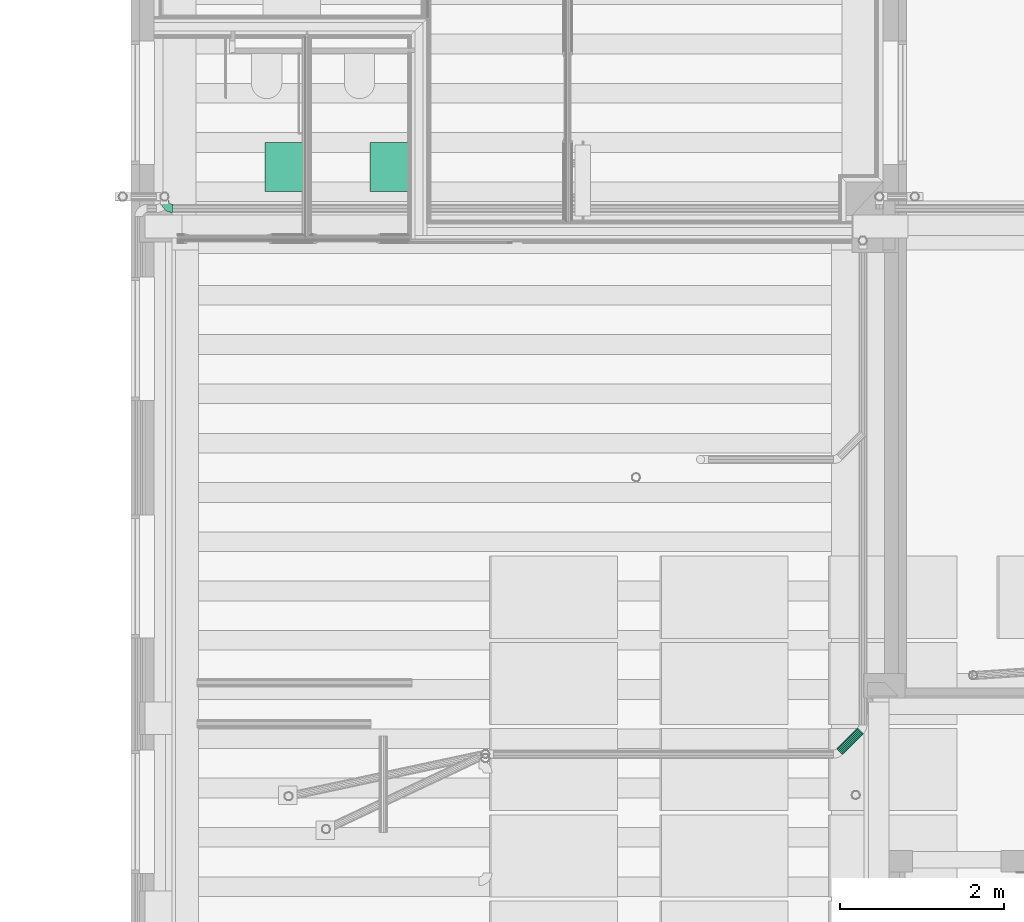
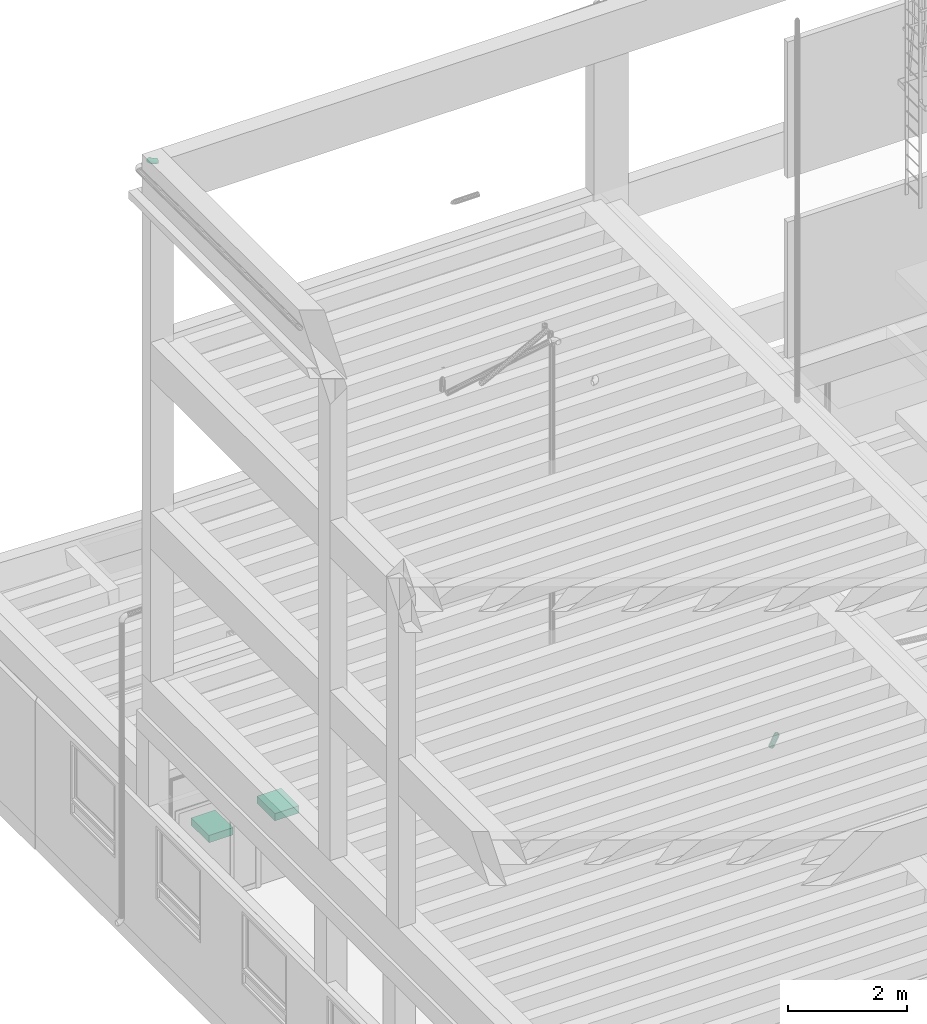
# One storey, part 83 of 106: 2 flow terminals, 1 flow fitting, 1 flow segment.
"""IFC2X3 building model written with IfcOpenShell, lengths in metres."""

from ifc_helpers import new_model, entity, si_unit, converted_unit, derived_unit, money_unit, direction, frame, origin_with_axes, place, context, subcontext, project, spatial, open_shell, faceted_brep, surface_model, material, type_object, element, save


model = new_model("IFC2X3")

# Units and contexts
model_context = context("Model", 3, precision=1e-05, world=origin_with_axes(), true_north=direction((0.0, 1.0)))
body_context = subcontext(model_context, "Body", "Model", "MODEL_VIEW", scale=1.0)
ifc_project = project(units=[si_unit("LENGTHUNIT", "METRE"), si_unit("AREAUNIT", "SQUARE_METRE"), si_unit("VOLUMEUNIT", "CUBIC_METRE"), si_unit("ABSORBEDDOSEUNIT", "GRAY"), si_unit("AMOUNTOFSUBSTANCEUNIT", "MOLE"), si_unit("DOSEEQUIVALENTUNIT", "SIEVERT"), si_unit("ELECTRICCAPACITANCEUNIT", "FARAD"), si_unit("ELECTRICCHARGEUNIT", "COULOMB"), si_unit("ELECTRICCONDUCTANCEUNIT", "SIEMENS"), si_unit("ELECTRICCURRENTUNIT", "AMPERE"), si_unit("ELECTRICRESISTANCEUNIT", "OHM"), si_unit("ELECTRICVOLTAGEUNIT", "VOLT"), si_unit("ENERGYUNIT", "JOULE"), si_unit("FORCEUNIT", "NEWTON"), si_unit("FREQUENCYUNIT", "HERTZ"), si_unit("ILLUMINANCEUNIT", "LUX"), si_unit("INDUCTANCEUNIT", "HENRY"), si_unit("LUMINOUSFLUXUNIT", "LUMEN"), si_unit("LUMINOUSINTENSITYUNIT", "CANDELA"), si_unit("MAGNETICFLUXDENSITYUNIT", "TESLA"), si_unit("MAGNETICFLUXUNIT", "WEBER"), si_unit("MASSUNIT", "GRAM"), converted_unit("PLANEANGLEUNIT", "degree", entity("IfcReal", 0.0174532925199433), si_unit("PLANEANGLEUNIT", "RADIAN"), dimensions=[0, 0, 0, 0, 0, 0, 0]), si_unit("POWERUNIT", "WATT"), si_unit("PRESSUREUNIT", "PASCAL"), si_unit("RADIOACTIVITYUNIT", "BECQUEREL"), si_unit("SOLIDANGLEUNIT", "STERADIAN"), si_unit("THERMODYNAMICTEMPERATUREUNIT", "KELVIN"), si_unit("TIMEUNIT", "SECOND"), derived_unit("ACCELERATIONUNIT", [(si_unit("LENGTHUNIT", "METRE"), 1), (si_unit("TIMEUNIT", "SECOND"), -2)]), derived_unit("ANGULARVELOCITYUNIT", [(converted_unit("PLANEANGLEUNIT", "degree", entity("IfcReal", 0.0174532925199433), si_unit("PLANEANGLEUNIT", "RADIAN"), dimensions=[0, 0, 0, 0, 0, 0, 0]), 1), (si_unit("TIMEUNIT", "SECOND"), -1)]), derived_unit("CURVATUREUNIT", [(converted_unit("PLANEANGLEUNIT", "degree", entity("IfcReal", 0.0174532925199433), si_unit("PLANEANGLEUNIT", "RADIAN"), dimensions=[0, 0, 0, 0, 0, 0, 0]), 1), (si_unit("LENGTHUNIT", "METRE"), -1)]), derived_unit("DYNAMICVISCOSITYUNIT", [(si_unit("PRESSUREUNIT", "PASCAL"), 1), (si_unit("TIMEUNIT", "SECOND"), 1)]), derived_unit("HEATFLUXDENSITYUNIT", [(si_unit("POWERUNIT", "WATT"), 1), (si_unit("LENGTHUNIT", "METRE"), -2)]), derived_unit("HEATINGVALUEUNIT", [(si_unit("ENERGYUNIT", "JOULE"), 1), (si_unit("MASSUNIT", "GRAM"), -1)]), derived_unit("INTEGERCOUNTRATEUNIT", [(si_unit("TIMEUNIT", "SECOND"), -1)]), derived_unit("IONCONCENTRATIONUNIT", [(si_unit("MASSUNIT", "GRAM"), 1), (si_unit("VOLUMEUNIT", "CUBIC_METRE"), -1)]), derived_unit("ISOTHERMALMOISTURECAPACITYUNIT", [(si_unit("VOLUMEUNIT", "CUBIC_METRE"), 1), (si_unit("MASSUNIT", "GRAM"), -1)]), derived_unit("KINEMATICVISCOSITYUNIT", [(si_unit("AREAUNIT", "SQUARE_METRE"), 1), (si_unit("TIMEUNIT", "SECOND"), -1)]), derived_unit("LINEARFORCEUNIT", [(si_unit("FORCEUNIT", "NEWTON"), 1), (si_unit("LENGTHUNIT", "METRE"), -1)]), derived_unit("LINEARMOMENTUNIT", [(si_unit("FORCEUNIT", "NEWTON"), 1), (si_unit("LENGTHUNIT", "METRE"), -1)]), derived_unit("LINEARSTIFFNESSUNIT", [(si_unit("FORCEUNIT", "NEWTON"), 1), (si_unit("LENGTHUNIT", "METRE"), -1)]), derived_unit("LINEARVELOCITYUNIT", [(si_unit("LENGTHUNIT", "METRE"), 1), (si_unit("TIMEUNIT", "SECOND"), -1)]), derived_unit("LUMINOUSINTENSITYDISTRIBUTIONUNIT", [(si_unit("LUMINOUSINTENSITYUNIT", "CANDELA"), 1), (si_unit("LUMINOUSFLUXUNIT", "LUMEN"), -1)]), derived_unit("MASSDENSITYUNIT", [(si_unit("MASSUNIT", "GRAM"), 1), (si_unit("VOLUMEUNIT", "CUBIC_METRE"), -1)]), derived_unit("MASSFLOWRATEUNIT", [(si_unit("MASSUNIT", "GRAM"), 1), (si_unit("TIMEUNIT", "SECOND"), -1)]), derived_unit("MASSPERLENGTHUNIT", [(si_unit("MASSUNIT", "GRAM"), 1), (si_unit("LENGTHUNIT", "METRE"), -1)]), derived_unit("MODULUSOFELASTICITYUNIT", [(si_unit("FORCEUNIT", "NEWTON"), 1), (si_unit("AREAUNIT", "SQUARE_METRE"), -1)]), derived_unit("MODULUSOFLINEARSUBGRADEREACTIONUNIT", [(si_unit("FORCEUNIT", "NEWTON"), 1), (si_unit("LENGTHUNIT", "METRE"), -2)]), derived_unit("MODULUSOFROTATIONALSUBGRADEREACTIONUNIT", [(si_unit("FORCEUNIT", "NEWTON"), 1), (si_unit("LENGTHUNIT", "METRE"), 1)]), derived_unit("MODULUSOFSUBGRADEREACTIONUNIT", [(si_unit("FORCEUNIT", "NEWTON"), 1), (si_unit("VOLUMEUNIT", "CUBIC_METRE"), -1)]), derived_unit("MOISTUREDIFFUSIVITYUNIT", [(si_unit("VOLUMEUNIT", "CUBIC_METRE"), 1), (si_unit("TIMEUNIT", "SECOND"), -1)]), derived_unit("MOLECULARWEIGHTUNIT", [(si_unit("MASSUNIT", "GRAM"), 1), (si_unit("AMOUNTOFSUBSTANCEUNIT", "MOLE"), -1)]), derived_unit("PLANARFORCEUNIT", [(si_unit("FORCEUNIT", "NEWTON"), 1), (si_unit("LENGTHUNIT", "METRE"), -2)]), derived_unit("ROTATIONALFREQUENCYUNIT", [(si_unit("TIMEUNIT", "SECOND"), -1)]), derived_unit("ROTATIONALMASSUNIT", [(si_unit("MASSUNIT", "GRAM"), 1), (si_unit("LENGTHUNIT", "METRE"), 2)]), derived_unit("ROTATIONALSTIFFNESSUNIT", [(si_unit("FORCEUNIT", "NEWTON"), 1), (si_unit("LENGTHUNIT", "METRE"), 1), (converted_unit("PLANEANGLEUNIT", "degree", entity("IfcReal", 0.0174532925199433), si_unit("PLANEANGLEUNIT", "RADIAN"), dimensions=[0, 0, 0, 0, 0, 0, 0]), -1)]), derived_unit("SECTIONAREAINTEGRALUNIT", [(si_unit("LENGTHUNIT", "METRE"), 5)]), derived_unit("SECTIONMODULUSUNIT", [(si_unit("LENGTHUNIT", "METRE"), 3)]), derived_unit("SHEARMODULUSUNIT", [(si_unit("FORCEUNIT", "NEWTON"), 1), (si_unit("AREAUNIT", "SQUARE_METRE"), -1)]), derived_unit("SOUNDPOWERUNIT", [(si_unit("ENERGYUNIT", "JOULE"), 1), (si_unit("TIMEUNIT", "SECOND"), -1)]), derived_unit("SPECIFICHEATCAPACITYUNIT", [(si_unit("FORCEUNIT", "NEWTON"), 1), (si_unit("MASSUNIT", "GRAM"), -1), (si_unit("THERMODYNAMICTEMPERATUREUNIT", "KELVIN"), -1)]), derived_unit("TEMPERATUREGRADIENTUNIT", [(si_unit("THERMODYNAMICTEMPERATUREUNIT", "KELVIN"), 1), (si_unit("LENGTHUNIT", "METRE"), -1)]), derived_unit("THERMALADMITTANCEUNIT", [(si_unit("POWERUNIT", "WATT"), 1), (si_unit("AREAUNIT", "SQUARE_METRE"), -1), (si_unit("THERMODYNAMICTEMPERATUREUNIT", "KELVIN"), -1)]), derived_unit("THERMALCONDUCTANCEUNIT", [(si_unit("POWERUNIT", "WATT"), 1), (si_unit("LENGTHUNIT", "METRE"), -1), (si_unit("THERMODYNAMICTEMPERATUREUNIT", "KELVIN"), -1)]), derived_unit("THERMALEXPANSIONCOEFFICIENTUNIT", [(si_unit("THERMODYNAMICTEMPERATUREUNIT", "KELVIN"), -1)]), derived_unit("THERMALRESISTANCEUNIT", [(si_unit("AREAUNIT", "SQUARE_METRE"), 1), (si_unit("POWERUNIT", "WATT"), -1)]), derived_unit("THERMALTRANSMITTANCEUNIT", [(si_unit("POWERUNIT", "WATT"), 1), (si_unit("AREAUNIT", "SQUARE_METRE"), -1), (si_unit("THERMODYNAMICTEMPERATUREUNIT", "KELVIN"), -1)]), derived_unit("TORQUEUNIT", [(si_unit("FORCEUNIT", "NEWTON"), 1), (si_unit("LENGTHUNIT", "METRE"), 1)]), derived_unit("VAPORPERMEABILITYUNIT", [(si_unit("MASSUNIT", "GRAM"), 1), (si_unit("TIMEUNIT", "SECOND"), -1)]), derived_unit("VOLUMETRICFLOWRATEUNIT", [(si_unit("VOLUMEUNIT", "CUBIC_METRE"), 1), (si_unit("TIMEUNIT", "SECOND"), -1)]), derived_unit("WARPINGCONSTANTUNIT", [(si_unit("LENGTHUNIT", "METRE"), 6)]), derived_unit("WARPINGMOMENTUNIT", [(si_unit("FORCEUNIT", "NEWTON"), 1), (si_unit("LENGTHUNIT", "METRE"), 2)]), money_unit("GBP")], contexts=[model_context])

# Site, building, storey, space
site_placement = place(None, origin_with_axes())
site = spatial("IfcSite", under=ifc_project, at=site_placement, Name="Site", CompositionType="ELEMENT")
building_placement = place(site_placement, origin_with_axes())
building = spatial("IfcBuilding", under=site, at=building_placement, Name="Building01", CompositionType="ELEMENT")
storey_placement = place(building_placement, origin_with_axes())
storey = spatial("IfcBuildingStorey", under=building, at=storey_placement, Name="GF", CompositionType="ELEMENT", Elevation=0.0)
space_1_placement = place(storey_placement, frame((3.380525, 16.69365, 0.216987), z_axis=(0.0, 0.0, 1.0), x_axis=(-1.0, 0.0, 0.0)))
space_1 = spatial("IfcSpace", under=storey, at=space_1_placement, Name="0", CompositionType="ELEMENT", InteriorOrExteriorSpace="NOTDEFINED")

# Flow segment
ifc_material = material(Name="M_BSUK_ColdWater")
pipe_segment_type = type_object("IfcPipeSegmentType", Name="M-BmpStraightpipe-DefaultPipe", PredefinedType="RIGIDSEGMENT")
flow_segment_placement = place(storey_placement, frame((8.624542, 8.192454, 4.622748), z_axis=(0.00883814, 0.00883814, 0.99992188), x_axis=(0.70705155, 0.70705154, -0.01249902)))
element("IfcFlowSegment", 1, at=flow_segment_placement, inside=space_1, type_object=pipe_segment_type, material=ifc_material, Name="M-BmpStraightpipe-DefaultPipe", ObjectType="M-BmpStraightpipe-DefaultPipe", context=body_context, shape_type="Brep", body=[
    faceted_brep([(0.36222, 0.0, -0.05), (0.0, 0.0, -0.05), (0.0, 0.019134, -0.046194), (0.36222, 0.019134, -0.046194), (0.0, 0.035355, -0.035355), (0.36222, 0.035355, -0.035355), (0.0, 0.046194, -0.019134), (0.36222, 0.046194, -0.019134), (0.0, 0.05, 0.0), (0.36222, 0.05, 0.0), (0.0, 0.046194, 0.019134), (0.36222, 0.046194, 0.019134), (0.0, 0.035355, 0.035355), (0.36222, 0.035355, 0.035355), (0.0, 0.019134, 0.046194), (0.36222, 0.019134, 0.046194), (0.0, 0.0, 0.05), (0.36222, 0.0, 0.05), (0.0, -0.019134, 0.046194), (0.36222, -0.019134, 0.046194), (0.0, -0.035355, 0.035355), (0.36222, -0.035355, 0.035355), (0.0, -0.046194, 0.019134), (0.36222, -0.046194, 0.019134), (0.0, -0.05, 0.0), (0.36222, -0.05, 0.0), (0.0, -0.046194, -0.019134), (0.36222, -0.046194, -0.019134), (0.0, -0.035355, -0.035355), (0.36222, -0.035355, -0.035355), (0.0, -0.019134, -0.046194), (0.36222, -0.019134, -0.046194)], [[[0, 1, 2, 3]], [[3, 2, 4, 5]], [[5, 4, 6, 7]], [[7, 6, 8, 9]], [[9, 8, 10, 11]], [[11, 10, 12, 13]], [[13, 12, 14, 15]], [[15, 14, 16, 17]], [[17, 16, 18, 19]], [[19, 18, 20, 21]], [[21, 20, 22, 23]], [[23, 22, 24, 25]], [[25, 24, 26, 27]], [[27, 26, 28, 29]], [[29, 28, 30, 31]], [[31, 30, 1, 0]]]),
])

# Flow fitting
pipe_fitting_type = type_object("IfcPipeFittingType", Name="M-BmpElbow-DefaultElbow", PredefinedType="BEND")
flow_fitting_placement = place(storey_placement, frame((0.408496, 14.905103, 15.475211), z_axis=(-1.0, 0.0, 0.0), x_axis=(0.0, 0.99414865, -0.10802068)))
element("IfcFlowFitting", 2, at=flow_fitting_placement, inside=storey, type_object=pipe_fitting_type, material=ifc_material, Name="M-BmpElbow-DefaultElbow", ObjectType="M-BmpElbow-DefaultElbow", context=body_context, shape_type="SurfaceModel", body=[
    surface_model("IfcShellBasedSurfaceModel", [(-0.008009, -0.01349, -0.048768), (0.0, -0.01349, -0.048146), (0.0, 0.0, -0.05), (-0.007723, 0.0, -0.0506), (-0.015826, -0.01349, -0.05062), (-0.015261, 0.0, -0.052386), (-0.023264, -0.01349, -0.053657), (-0.022432, 0.0, -0.055314), (-0.030143, -0.01349, -0.057807), (-0.029065, 0.0, -0.059315), (-0.036298, -0.01349, -0.062969), (-0.035, 0.0, -0.064293), (-0.041582, -0.01349, -0.06902), (-0.040095, 0.0, -0.070127), (-0.045868, -0.01349, -0.075814), (-0.044228, 0.0, -0.076679), (-0.049054, -0.01349, -0.083189), (-0.0473, 0.0, -0.08379), (-0.051061, -0.01349, -0.090968), (-0.049236, 0.0, -0.091291), (-0.051844, -0.01349, -0.098963), (-0.04999, 0.0, -0.099), (-0.008847, -0.025979, -0.043408), (0.0, -0.025979, -0.042721), (-0.017482, -0.025979, -0.045454), (-0.025697, -0.025979, -0.048809), (-0.033296, -0.025979, -0.053392), (-0.040095, -0.025979, -0.059095), (-0.045932, -0.025979, -0.065779), (-0.050667, -0.025979, -0.073284), (-0.054185, -0.025979, -0.081431), (-0.056403, -0.025979, -0.090023), (-0.057268, -0.025979, -0.098855), (-0.010175, -0.036542, -0.034918), (0.0, -0.036542, -0.034128), (-0.020105, -0.036542, -0.037271), (-0.029553, -0.036542, -0.041129), (-0.038291, -0.036542, -0.0464), (-0.046111, -0.036542, -0.052958), (-0.052823, -0.036542, -0.060645), (-0.058268, -0.036542, -0.069276), (-0.062315, -0.036542, -0.078645), (-0.064865, -0.036542, -0.088526), (-0.065859, -0.036542, -0.098683), (-0.011893, -0.044394, -0.023927), (0.0, -0.044394, -0.023003), (-0.0235, -0.044394, -0.026677), (-0.034544, -0.044394, -0.031187), (-0.044758, -0.044394, -0.037348), (-0.053898, -0.044394, -0.045013), (-0.061744, -0.044394, -0.053998), (-0.068109, -0.044394, -0.064087), (-0.072838, -0.044394, -0.075038), (-0.07582, -0.044394, -0.086588), (-0.076981, -0.044394, -0.09846), (-0.013875, -0.048954, -0.011251), (0.0, -0.048954, -0.010173), (-0.027416, -0.048954, -0.014459), (-0.0403, -0.048954, -0.01972), (-0.052216, -0.048954, -0.026908), (-0.062879, -0.048954, -0.035851), (-0.072033, -0.048954, -0.046333), (-0.079458, -0.048954, -0.058103), (-0.084976, -0.048954, -0.070879), (-0.088454, -0.048954, -0.084353), (-0.089809, -0.048954, -0.098204), (-0.015973, -0.049883, 0.002171), (0.0, -0.049883, 0.003412), (-0.031562, -0.049883, -0.001522), (-0.046394, -0.049883, -0.007579), (-0.060113, -0.049883, -0.015854), (-0.072389, -0.049883, -0.026149), (-0.082927, -0.049883, -0.038216), (-0.091475, -0.049883, -0.051767), (-0.097827, -0.049883, -0.066475), (-0.101831, -0.049883, -0.081987), (-0.103391, -0.049883, -0.097932), (-0.018032, -0.047113, 0.015343), (0.0, -0.047113, 0.016744), (-0.035632, -0.047113, 0.011174), (-0.052376, -0.047113, 0.004336), (-0.067863, -0.047113, -0.005006), (-0.081721, -0.047113, -0.016628), (-0.093618, -0.047113, -0.030251), (-0.103268, -0.047113, -0.045548), (-0.110439, -0.047113, -0.062153), (-0.114959, -0.047113, -0.079665), (-0.116721, -0.047113, -0.097665), (-0.0199, -0.040848, 0.027288), (0.0, -0.040848, 0.028834), (-0.039322, -0.040848, 0.022687), (-0.0578, -0.040848, 0.015141), (-0.074891, -0.040848, 0.004831), (-0.090184, -0.040848, -0.007994), (-0.103313, -0.040848, -0.023028), (-0.113962, -0.040848, -0.039909), (-0.121876, -0.040848, -0.058233), (-0.126865, -0.040848, -0.077559), (-0.128808, -0.040848, -0.097424), (-0.021437, -0.031554, 0.03712), (0.0, -0.031554, 0.038786), (-0.042359, -0.031554, 0.032163), (-0.062264, -0.031554, 0.024035), (-0.080675, -0.031554, 0.012929), (-0.09715, -0.031554, -0.000887), (-0.111293, -0.031554, -0.017083), (-0.122765, -0.031554, -0.035268), (-0.13129, -0.031554, -0.055007), (-0.136664, -0.031554, -0.075826), (-0.138758, -0.031554, -0.097225), (-0.022529, -0.01992, 0.04411), (0.0, -0.01992, 0.045861), (-0.044518, -0.01992, 0.038901), (-0.065438, -0.01992, 0.030358), (-0.084788, -0.01992, 0.018686), (-0.102103, -0.01992, 0.004165), (-0.116966, -0.01992, -0.012856), (-0.129023, -0.01992, -0.031968), (-0.137983, -0.01992, -0.052713), (-0.143631, -0.01992, -0.074593), (-0.145831, -0.01992, -0.097083), (-0.023097, -0.006808, 0.04774), (0.0, -0.006808, 0.049534), (-0.045639, -0.006808, 0.042399), (-0.067087, -0.006808, 0.033641), (-0.086924, -0.006808, 0.021675), (-0.104674, -0.006808, 0.006789), (-0.119912, -0.006808, -0.010661), (-0.132273, -0.006808, -0.030254), (-0.141458, -0.006808, -0.051522), (-0.147248, -0.006808, -0.073953), (-0.149504, -0.006808, -0.09701), (-0.023097, 0.006808, 0.04774), (0.0, 0.006808, 0.049534), (-0.045639, 0.006808, 0.042399), (-0.067087, 0.006808, 0.033641), (-0.086924, 0.006808, 0.021675), (-0.104674, 0.006808, 0.006789), (-0.119912, 0.006808, -0.010661), (-0.132273, 0.006808, -0.030254), (-0.141458, 0.006808, -0.051522), (-0.147248, 0.006808, -0.073953), (-0.149504, 0.006808, -0.09701), (-0.022529, 0.01992, 0.04411), (0.0, 0.01992, 0.045861), (-0.044518, 0.01992, 0.038901), (-0.065438, 0.01992, 0.030358), (-0.084788, 0.01992, 0.018686), (-0.102103, 0.01992, 0.004165), (-0.116966, 0.01992, -0.012856), (-0.129023, 0.01992, -0.031968), (-0.137983, 0.01992, -0.052713), (-0.143631, 0.01992, -0.074593), (-0.145831, 0.01992, -0.097083), (-0.021437, 0.031554, 0.03712), (0.0, 0.031554, 0.038786), (-0.042359, 0.031554, 0.032163), (-0.062264, 0.031554, 0.024035), (-0.080675, 0.031554, 0.012929), (-0.09715, 0.031554, -0.000887), (-0.111293, 0.031554, -0.017083), (-0.122765, 0.031554, -0.035268), (-0.13129, 0.031554, -0.055007), (-0.136664, 0.031554, -0.075826), (-0.138758, 0.031554, -0.097225), (-0.0199, 0.040848, 0.027288), (0.0, 0.040848, 0.028834), (-0.039322, 0.040848, 0.022687), (-0.0578, 0.040848, 0.015141), (-0.074891, 0.040848, 0.004831), (-0.090184, 0.040848, -0.007994), (-0.103313, 0.040848, -0.023028), (-0.113962, 0.040848, -0.039909), (-0.121876, 0.040848, -0.058233), (-0.126865, 0.040848, -0.077559), (-0.128808, 0.040848, -0.097424), (-0.018032, 0.047113, 0.015343), (0.0, 0.047113, 0.016744), (-0.035632, 0.047113, 0.011174), (-0.052376, 0.047113, 0.004336), (-0.067863, 0.047113, -0.005006), (-0.081721, 0.047113, -0.016628), (-0.093618, 0.047113, -0.030251), (-0.103268, 0.047113, -0.045548), (-0.110439, 0.047113, -0.062153), (-0.114959, 0.047113, -0.079665), (-0.116721, 0.047113, -0.097665), (-0.015973, 0.049883, 0.002171), (0.0, 0.049883, 0.003412), (-0.031562, 0.049883, -0.001522), (-0.046394, 0.049883, -0.007579), (-0.060113, 0.049883, -0.015854), (-0.072389, 0.049883, -0.026149), (-0.082927, 0.049883, -0.038216), (-0.091475, 0.049883, -0.051767), (-0.097827, 0.049883, -0.066475), (-0.101831, 0.049883, -0.081987), (-0.103391, 0.049883, -0.097932), (-0.013875, 0.048954, -0.011251), (0.0, 0.048954, -0.010173), (-0.027416, 0.048954, -0.014459), (-0.0403, 0.048954, -0.01972), (-0.052216, 0.048954, -0.026908), (-0.062879, 0.048954, -0.035851), (-0.072033, 0.048954, -0.046333), (-0.079458, 0.048954, -0.058103), (-0.084976, 0.048954, -0.070879), (-0.088454, 0.048954, -0.084353), (-0.089809, 0.048954, -0.098204), (-0.011893, 0.044394, -0.023927), (0.0, 0.044394, -0.023003), (-0.0235, 0.044394, -0.026677), (-0.034544, 0.044394, -0.031187), (-0.044758, 0.044394, -0.037348), (-0.053898, 0.044394, -0.045013), (-0.061744, 0.044394, -0.053998), (-0.068109, 0.044394, -0.064087), (-0.072838, 0.044394, -0.075038), (-0.07582, 0.044394, -0.086588), (-0.076981, 0.044394, -0.09846), (-0.010175, 0.036542, -0.034918), (0.0, 0.036542, -0.034128), (-0.020105, 0.036542, -0.037271), (-0.029553, 0.036542, -0.041129), (-0.038291, 0.036542, -0.0464), (-0.046111, 0.036542, -0.052958), (-0.052823, 0.036542, -0.060645), (-0.058268, 0.036542, -0.069276), (-0.062315, 0.036542, -0.078645), (-0.064865, 0.036542, -0.088526), (-0.065859, 0.036542, -0.098683), (-0.008847, 0.025979, -0.043408), (0.0, 0.025979, -0.042721), (-0.017482, 0.025979, -0.045454), (-0.025697, 0.025979, -0.048809), (-0.033296, 0.025979, -0.053392), (-0.040095, 0.025979, -0.059095), (-0.045932, 0.025979, -0.065779), (-0.050667, 0.025979, -0.073284), (-0.054185, 0.025979, -0.081431), (-0.056403, 0.025979, -0.090023), (-0.057268, 0.025979, -0.098855), (-0.008009, 0.01349, -0.048768), (0.0, 0.01349, -0.048146), (-0.015826, 0.01349, -0.05062), (-0.023264, 0.01349, -0.053657), (-0.030143, 0.01349, -0.057807), (-0.036298, 0.01349, -0.062969), (-0.041582, 0.01349, -0.06902), (-0.045868, 0.01349, -0.075814), (-0.049054, 0.01349, -0.083189), (-0.051061, 0.01349, -0.090968), (-0.051844, 0.01349, -0.098963)], [open_shell([[[0, 1, 2, 3]], [[4, 0, 3, 5]], [[6, 4, 5, 7]], [[8, 6, 7, 9]], [[10, 8, 9, 11]], [[12, 10, 11, 13]], [[14, 12, 13, 15]], [[16, 14, 15, 17]], [[18, 16, 17, 19]], [[20, 18, 19, 21]], [[22, 23, 1, 0]], [[24, 22, 0, 4]], [[25, 24, 4, 6]], [[26, 25, 6, 8]], [[27, 26, 8, 10]], [[28, 27, 10, 12]], [[29, 28, 12, 14]], [[30, 29, 14, 16]], [[31, 30, 16, 18]], [[32, 31, 18, 20]], [[33, 34, 23, 22]], [[35, 33, 22, 24]], [[36, 35, 24, 25]], [[37, 36, 25, 26]], [[38, 37, 26, 27]], [[39, 38, 27, 28]], [[40, 39, 28, 29]], [[41, 40, 29, 30]], [[42, 41, 30, 31]], [[43, 42, 31, 32]], [[44, 45, 34, 33]], [[46, 44, 33, 35]], [[47, 46, 35, 36]], [[48, 47, 36, 37]], [[49, 48, 37, 38]], [[50, 49, 38, 39]], [[51, 50, 39, 40]], [[52, 51, 40, 41]], [[53, 52, 41, 42]], [[54, 53, 42, 43]], [[55, 56, 45, 44]], [[57, 55, 44, 46]], [[58, 57, 46, 47]], [[59, 58, 47, 48]], [[60, 59, 48, 49]], [[61, 60, 49, 50]], [[62, 61, 50, 51]], [[63, 62, 51, 52]], [[64, 63, 52, 53]], [[65, 64, 53, 54]], [[66, 67, 56, 55]], [[68, 66, 55, 57]], [[69, 68, 57, 58]], [[70, 69, 58, 59]], [[71, 70, 59, 60]], [[72, 71, 60, 61]], [[73, 72, 61, 62]], [[74, 73, 62, 63]], [[75, 74, 63, 64]], [[76, 75, 64, 65]], [[77, 78, 67, 66]], [[79, 77, 66, 68]], [[80, 79, 68, 69]], [[81, 80, 69, 70]], [[82, 81, 70, 71]], [[83, 82, 71, 72]], [[84, 83, 72, 73]], [[85, 84, 73, 74]], [[86, 85, 74, 75]], [[87, 86, 75, 76]], [[88, 89, 78, 77]], [[90, 88, 77, 79]], [[91, 90, 79, 80]], [[92, 91, 80, 81]], [[93, 92, 81, 82]], [[94, 93, 82, 83]], [[95, 94, 83, 84]], [[96, 95, 84, 85]], [[97, 96, 85, 86]], [[98, 97, 86, 87]], [[99, 100, 89, 88]], [[101, 99, 88, 90]], [[102, 101, 90, 91]], [[103, 102, 91, 92]], [[104, 103, 92, 93]], [[105, 104, 93, 94]], [[106, 105, 94, 95]], [[107, 106, 95, 96]], [[108, 107, 96, 97]], [[109, 108, 97, 98]], [[110, 111, 100, 99]], [[112, 110, 99, 101]], [[113, 112, 101, 102]], [[114, 113, 102, 103]], [[115, 114, 103, 104]], [[116, 115, 104, 105]], [[117, 116, 105, 106]], [[118, 117, 106, 107]], [[119, 118, 107, 108]], [[120, 119, 108, 109]], [[121, 122, 111, 110]], [[123, 121, 110, 112]], [[124, 123, 112, 113]], [[125, 124, 113, 114]], [[126, 125, 114, 115]], [[127, 126, 115, 116]], [[128, 127, 116, 117]], [[129, 128, 117, 118]], [[130, 129, 118, 119]], [[131, 130, 119, 120]], [[132, 133, 122, 121]], [[134, 132, 121, 123]], [[135, 134, 123, 124]], [[136, 135, 124, 125]], [[137, 136, 125, 126]], [[138, 137, 126, 127]], [[139, 138, 127, 128]], [[140, 139, 128, 129]], [[141, 140, 129, 130]], [[142, 141, 130, 131]], [[143, 144, 133, 132]], [[145, 143, 132, 134]], [[146, 145, 134, 135]], [[147, 146, 135, 136]], [[148, 147, 136, 137]], [[149, 148, 137, 138]], [[150, 149, 138, 139]], [[151, 150, 139, 140]], [[152, 151, 140, 141]], [[153, 152, 141, 142]], [[154, 155, 144, 143]], [[156, 154, 143, 145]], [[157, 156, 145, 146]], [[158, 157, 146, 147]], [[159, 158, 147, 148]], [[160, 159, 148, 149]], [[161, 160, 149, 150]], [[162, 161, 150, 151]], [[163, 162, 151, 152]], [[164, 163, 152, 153]], [[165, 166, 155, 154]], [[167, 165, 154, 156]], [[168, 167, 156, 157]], [[169, 168, 157, 158]], [[170, 169, 158, 159]], [[171, 170, 159, 160]], [[172, 171, 160, 161]], [[173, 172, 161, 162]], [[174, 173, 162, 163]], [[175, 174, 163, 164]], [[176, 177, 166, 165]], [[178, 176, 165, 167]], [[179, 178, 167, 168]], [[180, 179, 168, 169]], [[181, 180, 169, 170]], [[182, 181, 170, 171]], [[183, 182, 171, 172]], [[184, 183, 172, 173]], [[185, 184, 173, 174]], [[186, 185, 174, 175]], [[187, 188, 177, 176]], [[189, 187, 176, 178]], [[190, 189, 178, 179]], [[191, 190, 179, 180]], [[192, 191, 180, 181]], [[193, 192, 181, 182]], [[194, 193, 182, 183]], [[195, 194, 183, 184]], [[196, 195, 184, 185]], [[197, 196, 185, 186]], [[198, 199, 188, 187]], [[200, 198, 187, 189]], [[201, 200, 189, 190]], [[202, 201, 190, 191]], [[203, 202, 191, 192]], [[204, 203, 192, 193]], [[205, 204, 193, 194]], [[206, 205, 194, 195]], [[207, 206, 195, 196]], [[208, 207, 196, 197]], [[209, 210, 199, 198]], [[211, 209, 198, 200]], [[212, 211, 200, 201]], [[213, 212, 201, 202]], [[214, 213, 202, 203]], [[215, 214, 203, 204]], [[216, 215, 204, 205]], [[217, 216, 205, 206]], [[218, 217, 206, 207]], [[219, 218, 207, 208]], [[220, 221, 210, 209]], [[222, 220, 209, 211]], [[223, 222, 211, 212]], [[224, 223, 212, 213]], [[225, 224, 213, 214]], [[226, 225, 214, 215]], [[227, 226, 215, 216]], [[228, 227, 216, 217]], [[229, 228, 217, 218]], [[230, 229, 218, 219]], [[231, 232, 221, 220]], [[233, 231, 220, 222]], [[234, 233, 222, 223]], [[235, 234, 223, 224]], [[236, 235, 224, 225]], [[237, 236, 225, 226]], [[238, 237, 226, 227]], [[239, 238, 227, 228]], [[240, 239, 228, 229]], [[241, 240, 229, 230]], [[242, 243, 232, 231]], [[244, 242, 231, 233]], [[245, 244, 233, 234]], [[246, 245, 234, 235]], [[247, 246, 235, 236]], [[248, 247, 236, 237]], [[249, 248, 237, 238]], [[250, 249, 238, 239]], [[251, 250, 239, 240]], [[252, 251, 240, 241]], [[3, 2, 243, 242]], [[5, 3, 242, 244]], [[7, 5, 244, 245]], [[9, 7, 245, 246]], [[11, 9, 246, 247]], [[13, 11, 247, 248]], [[15, 13, 248, 249]], [[17, 15, 249, 250]], [[19, 17, 250, 251]], [[21, 19, 251, 252]]])]),
])

# Space
space_2_placement = place(storey_placement, frame((2.180525, 16.693646, 0.217025), z_axis=(0.0, 0.0, 1.0), x_axis=(0.0, -1.0, 0.0)))
space_2 = spatial("IfcSpace", under=storey, at=space_2_placement, Name="M", CompositionType="ELEMENT", InteriorOrExteriorSpace="NOTDEFINED")

# Flow terminals
sanitary_terminal_type = type_object("IfcSanitaryTerminalType", Name="SHE_A-Sink_47x60", PredefinedType="NOTDEFINED")
flow_terminal_1_placement = place(storey_placement, frame((3.145525, 15.310634, 1.022999), z_axis=(0.0, 0.0, 1.0), x_axis=(1.0, 0.0, 0.0)))
element("IfcFlowTerminal", 3, at=flow_terminal_1_placement, inside=space_2, type_object=sanitary_terminal_type, Name="00", ObjectType="SHE_A-Sink_47x60", context=body_context, shape_type="Brep", body=[
    faceted_brep([(-0.235, 0.3, -0.075), (-0.235, 0.3, 0.075), (0.235, 0.3, 0.075), (0.235, 0.3, -0.075), (-0.235, -0.3, -0.075), (-0.235, -0.3, 0.075), (0.235, -0.3, -0.075), (0.235, -0.3, 0.075)], [[[0, 1, 2, 3]], [[4, 5, 1, 0]], [[6, 7, 5, 4]], [[3, 2, 7, 6]], [[1, 5, 7, 2]], [[3, 6, 4, 0]]]),
])
flow_terminal_2_placement = place(storey_placement, frame((1.865525, 15.310634, 1.022999), z_axis=(0.0, 0.0, 1.0), x_axis=(1.0, 0.0, 0.0)))
element("IfcFlowTerminal", 4, at=flow_terminal_2_placement, inside=space_1, type_object=sanitary_terminal_type, Name="00", ObjectType="SHE_A-Sink_47x60", context=body_context, shape_type="Brep", body=[
    faceted_brep([(-0.235, 0.3, -0.075), (-0.235, 0.3, 0.075), (0.235, 0.3, 0.075), (0.235, 0.3, -0.075), (-0.235, -0.3, -0.075), (-0.235, -0.3, 0.075), (0.235, -0.3, -0.075), (0.235, -0.3, 0.075)], [[[0, 1, 2, 3]], [[4, 5, 1, 0]], [[6, 7, 5, 4]], [[3, 2, 7, 6]], [[1, 5, 7, 2]], [[3, 6, 4, 0]]]),
])

save(model, "model.ifc")
